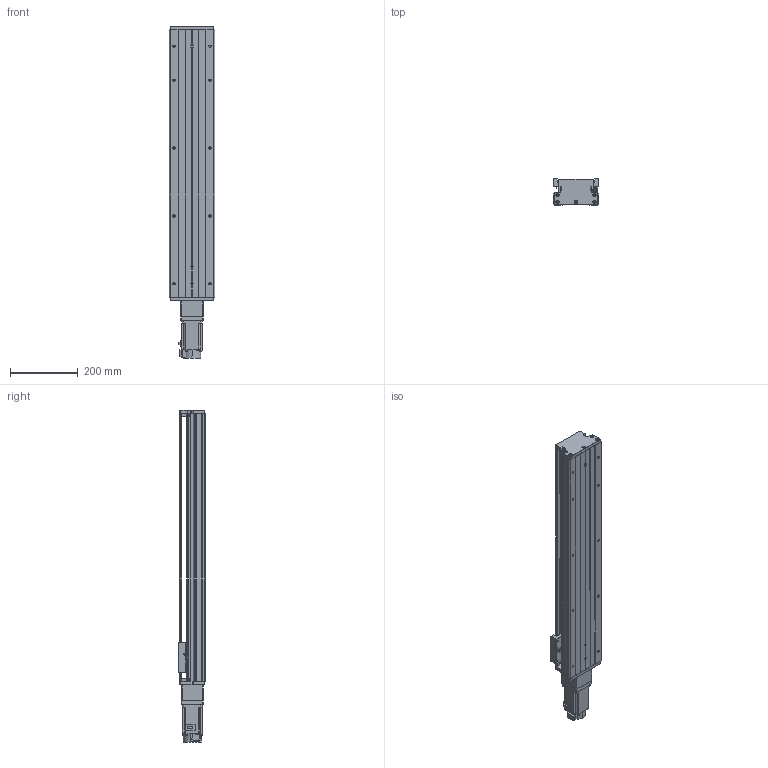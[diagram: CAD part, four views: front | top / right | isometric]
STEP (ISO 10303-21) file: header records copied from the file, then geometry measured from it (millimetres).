
FILE_DESCRIPTION (( 'STEP AP203' ), '1' );
FILE_NAME ('KTH130-650-BC-M40-C4.step', '2023-06-30T03:55:02', ( '微软用户' ), ( '微软中国' ), 'SwSTEP 2.0', 'SolidWorks 2020', '' );
FILE_SCHEMA (( 'CONFIG_CONTROL_DESIGN' ));
Length unit declared in the file: millimetre
Products named in the file (19): GBT 70.3-M3℅8; GTH14-001_650; CTHA60-017; CTHA86-006-1_M40; KTH130-002_KTH130-002; EE_SX911P_R; CTHA86-013; KTH130-004; CTHA60-016; CTHA86-027-1; KTH130-005; GBT 70.1-M3℅5; HG-KN43J-S100; GB1155-6X6; GBT77-2000 M3×3; KTH130-650-BC-M40-C4; GBT70.1 M5℅16; す晦芛蹟隊 M3℅5; GBT 70.2-M3¡Á5_M3¡Á6
Assembly tree (52 placements, depth 2):
  KTH130-650-BC-M40-C4
    GTH14-001_650
    KTH130-002_KTH130-002
    KTH130-004
    KTH130-005
    GB1155-6X6  x2
    GBT70.1 M5℅16  x10
    GBT 70.2-M3¡Á5_M3¡Á6  x4
    CTHA60-017  x3
    EE_SX911P_R  x3
    CTHA60-016  x2
    GBT 70.1-M3℅5  x6
    GBT77-2000 M3×3  x6
    す晦芛蹟隊 M3℅5  x2
    GBT 70.3-M3℅8  x6
    CTHA86-006-1_M40
    CTHA86-013
    CTHA86-027-1
    HG-KN43J-S100
Bounding box: 135 x 78 x 978.7 mm (x, y, z)
Volume: 4978074.8 mm3; surface area: 765417.8 mm2
Topology: 55 solids, 55 shells, 2182 faces, 5278 edges, 3294 vertices
Faces by surface type: plane 1194, cylinder 600, cone 280, torus 96, sphere 12
Entity records: 39882 total; most frequent: CARTESIAN_POINT 8476, DIRECTION 5925, ORIENTED_EDGE 5840, EDGE_CURVE 2920, AXIS2_PLACEMENT_3D 2017, LINE 1891, VECTOR 1891, VERTEX_POINT 1866
